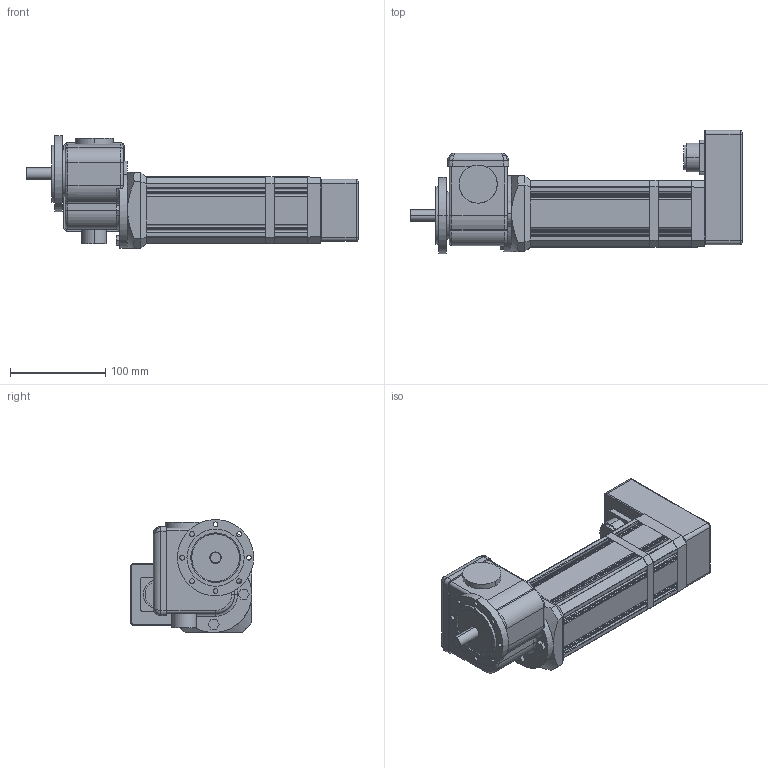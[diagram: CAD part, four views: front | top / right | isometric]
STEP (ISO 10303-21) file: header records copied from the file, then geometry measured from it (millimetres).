
FILE_DESCRIPTION(('OneSpaceDesigner STEP Export'),'2;1');
FILE_NAME('UECG313THL_GF239_Q.stp','2008-06-26T15:15:30',(''),(''),'OneSpace Designer STEP processor (Jan. 2003) for AP214(CD)(Solid Model)','OneSpace Designer 12.01D 09-Jul-2004 (C) CoCreate Software GmbH','');
FILE_SCHEMA(('AUTOMOTIVE_DESIGN_CC2 {1 2 10303 214 -1 1 5 1}'));
Length unit declared in the file: millimetre
Products named in the file (2): UECG313THL_GF239_Q
Assembly tree (1 placements, depth 2):
  UECG313THL_GF239_Q
    UECG313THL_GF239_Q
Bounding box: 348.5 x 129.5 x 118.5 mm (x, y, z)
Volume: 1875894.8 mm3; surface area: 153879 mm2
Topology: 1 solids, 1 shells, 476 faces, 1261 edges, 801 vertices
Faces by surface type: plane 230, cylinder 205, torus 22, bspline 12, cone 6, sphere 1
Entity records: 16096 total; most frequent: CARTESIAN_POINT 4655, ORIENTED_EDGE 2520, DIRECTION 2201, EDGE_CURVE 1260, VERTEX_POINT 801, AXIS2_PLACEMENT_3D 740, VECTOR 721, LINE 721
